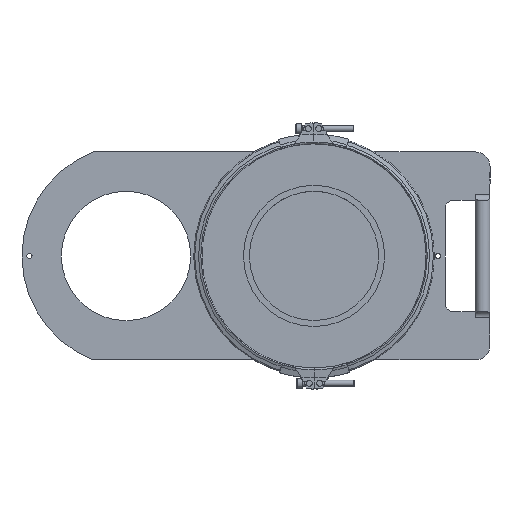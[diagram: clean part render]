
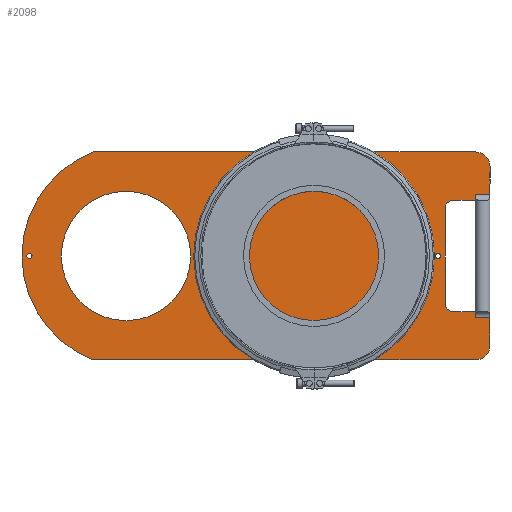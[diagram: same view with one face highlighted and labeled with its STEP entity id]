
A CAD part, top view. The second image highlights one B-rep face of the part: STEP entity #2098.
In plain terms, the highlighted planar face has unit normal (0, 0, 1) as drawn and (0, 0, -1) by its records, which use the part's own axes.
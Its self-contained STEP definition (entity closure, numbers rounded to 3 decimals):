
#1034=CARTESIAN_POINT('',(-616.5,140.0,0.0));
#1035=VERTEX_POINT('',#1034);
#1036=CARTESIAN_POINT('',(-620.,140.0,0.0));
#1037=DIRECTION('',(0.0,0.0,1.0));
#1038=DIRECTION('',(1.0,0.0,0.0));
#1039=AXIS2_PLACEMENT_3D('',#1036,#1037,#1038);
#1040=CIRCLE('',#1039,3.5);
#1041=EDGE_CURVE('',#1035,#1035,#1040,.T.);
#1083=CARTESIAN_POINT('',(-66.5,140.0,0.0));
#1084=VERTEX_POINT('',#1083);
#1085=CARTESIAN_POINT('',(-70.,140.0,0.0));
#1086=DIRECTION('',(0.0,0.0,1.0));
#1087=DIRECTION('',(1.0,0.0,0.0));
#1088=AXIS2_PLACEMENT_3D('',#1085,#1086,#1087);
#1089=CIRCLE('',#1088,3.5);
#1090=EDGE_CURVE('',#1084,#1084,#1089,.T.);
#1100=CARTESIAN_POINT('',(-0.113,57.,0.0));
#1101=VERTEX_POINT('',#1100);
#1121=CARTESIAN_POINT('',(-19.887,57.,0.0));
#1122=VERTEX_POINT('',#1121);
#1123=CARTESIAN_POINT('',(-0.113,57.,0.0));
#1124=DIRECTION('',(-1.0,0.0,0.0));
#1125=VECTOR('',#1124,19.774);
#1126=LINE('',#1123,#1125);
#1127=EDGE_CURVE('',#1101,#1122,#1126,.T.);
#1178=CARTESIAN_POINT('',(-19.887,223.,0.0));
#1179=VERTEX_POINT('',#1178);
#1199=CARTESIAN_POINT('',(-0.113,223.,0.0));
#1200=VERTEX_POINT('',#1199);
#1201=CARTESIAN_POINT('',(-19.887,223.,0.0));
#1202=DIRECTION('',(1.0,0.0,0.0));
#1203=VECTOR('',#1202,19.774);
#1204=LINE('',#1201,#1203);
#1205=EDGE_CURVE('',#1179,#1200,#1204,.T.);
#1584=CARTESIAN_POINT('',(-0.113,65.,0.0));
#1585=VERTEX_POINT('',#1584);
#1595=CARTESIAN_POINT('',(-0.113,57.,0.0));
#1596=DIRECTION('',(0.0,1.0,0.0));
#1597=VECTOR('',#1596,8.);
#1598=LINE('',#1595,#1597);
#1599=EDGE_CURVE('',#1101,#1585,#1598,.T.);
#1604=CARTESIAN_POINT('',(-19.887,65.,0.0));
#1605=VERTEX_POINT('',#1604);
#1606=CARTESIAN_POINT('',(-19.887,65.,0.0));
#1607=DIRECTION('',(0.0,-1.0,0.0));
#1608=VECTOR('',#1607,8.);
#1609=LINE('',#1606,#1608);
#1610=EDGE_CURVE('',#1605,#1122,#1609,.T.);
#1635=CARTESIAN_POINT('',(-0.113,215.,0.0));
#1636=VERTEX_POINT('',#1635);
#1656=CARTESIAN_POINT('',(-19.887,215.,0.0));
#1657=VERTEX_POINT('',#1656);
#1665=CARTESIAN_POINT('',(-19.887,223.,0.0));
#1666=DIRECTION('',(0.0,-1.0,0.0));
#1667=VECTOR('',#1666,8.);
#1668=LINE('',#1665,#1667);
#1669=EDGE_CURVE('',#1179,#1657,#1668,.T.);
#1674=CARTESIAN_POINT('',(-0.113,215.,0.0));
#1675=DIRECTION('',(0.0,1.0,0.0));
#1676=VECTOR('',#1675,8.);
#1677=LINE('',#1674,#1676);
#1678=EDGE_CURVE('',#1636,#1200,#1677,.T.);
#1705=CARTESIAN_POINT('',(0.,215.,0.0));
#1706=VERTEX_POINT('',#1705);
#1707=CARTESIAN_POINT('',(0.,215.,0.0));
#1708=DIRECTION('',(-1.0,0.0,0.0));
#1709=VECTOR('',#1708,0.113);
#1710=LINE('',#1707,#1709);
#1711=EDGE_CURVE('',#1706,#1636,#1710,.T.);
#1729=CARTESIAN_POINT('',(-50.,215.,0.0));
#1730=VERTEX_POINT('',#1729);
#1737=CARTESIAN_POINT('',(-19.887,215.,0.0));
#1738=DIRECTION('',(-1.0,0.0,0.0));
#1739=VECTOR('',#1738,30.113);
#1740=LINE('',#1737,#1739);
#1741=EDGE_CURVE('',#1657,#1730,#1740,.T.);
#1752=CARTESIAN_POINT('',(0.,65.,0.0));
#1753=VERTEX_POINT('',#1752);
#1760=CARTESIAN_POINT('',(-0.113,65.0,0.0));
#1761=DIRECTION('',(1.0,0.0,0.0));
#1762=VECTOR('',#1761,0.113);
#1763=LINE('',#1760,#1762);
#1764=EDGE_CURVE('',#1585,#1753,#1763,.T.);
#1791=CARTESIAN_POINT('',(-50.,65.,0.0));
#1792=VERTEX_POINT('',#1791);
#1793=CARTESIAN_POINT('',(-50.,65.,0.0));
#1794=DIRECTION('',(1.0,0.0,0.0));
#1795=VECTOR('',#1794,30.113);
#1796=LINE('',#1793,#1795);
#1797=EDGE_CURVE('',#1792,#1605,#1796,.T.);
#1817=CARTESIAN_POINT('',(-403.0,140.,0.0));
#1818=VERTEX_POINT('',#1817);
#1819=CARTESIAN_POINT('',(-490.0,140.0,0.0));
#1820=DIRECTION('',(0.0,0.0,1.0));
#1821=DIRECTION('',(-1.0,0.0,0.0));
#1822=AXIS2_PLACEMENT_3D('',#1819,#1820,#1821);
#1823=CIRCLE('',#1822,87.);
#1824=EDGE_CURVE('',#1818,#1818,#1823,.T.);
#1835=CARTESIAN_POINT('',(0.,260.0,0.0));
#1836=VERTEX_POINT('',#1835);
#1843=CARTESIAN_POINT('',(-20.,280.,0.0));
#1844=VERTEX_POINT('',#1843);
#1845=CARTESIAN_POINT('',(-20.,260.0,0.0));
#1846=DIRECTION('',(0.0,0.0,-1.0));
#1847=DIRECTION('',(-1.0,0.0,0.0));
#1848=AXIS2_PLACEMENT_3D('',#1845,#1846,#1847);
#1849=CIRCLE('',#1848,20.);
#1850=EDGE_CURVE('',#1844,#1836,#1849,.T.);
#1869=CARTESIAN_POINT('',(0.,260.0,0.0));
#1870=DIRECTION('',(0.0,-1.0,0.0));
#1871=VECTOR('',#1870,45.);
#1872=LINE('',#1869,#1871);
#1873=EDGE_CURVE('',#1836,#1706,#1872,.T.);
#1885=CARTESIAN_POINT('',(-60.0,205.0,0.0));
#1886=VERTEX_POINT('',#1885);
#1893=CARTESIAN_POINT('',(-50.0,205.0,0.0));
#1894=DIRECTION('',(0.0,0.0,1.0));
#1895=DIRECTION('',(0.0,1.0,0.0));
#1896=AXIS2_PLACEMENT_3D('',#1893,#1894,#1895);
#1897=CIRCLE('',#1896,10.);
#1898=EDGE_CURVE('',#1730,#1886,#1897,.T.);
#1910=CARTESIAN_POINT('',(-60.,75.,0.0));
#1911=VERTEX_POINT('',#1910);
#1918=CARTESIAN_POINT('',(-60.0,205.0,0.0));
#1919=DIRECTION('',(0.0,-1.0,0.0));
#1920=VECTOR('',#1919,130.0);
#1921=LINE('',#1918,#1920);
#1922=EDGE_CURVE('',#1886,#1911,#1921,.T.);
#1935=CARTESIAN_POINT('',(-50.,75.0,0.0));
#1936=DIRECTION('',(0.0,0.0,1.0));
#1937=DIRECTION('',(-1.0,0.0,0.0));
#1938=AXIS2_PLACEMENT_3D('',#1935,#1936,#1937);
#1939=CIRCLE('',#1938,10.);
#1940=EDGE_CURVE('',#1911,#1792,#1939,.T.);
#1952=CARTESIAN_POINT('',(0.,20.,0.0));
#1953=VERTEX_POINT('',#1952);
#1960=CARTESIAN_POINT('',(0.,65.,0.0));
#1961=DIRECTION('',(0.0,-1.0,0.0));
#1962=VECTOR('',#1961,45.);
#1963=LINE('',#1960,#1962);
#1964=EDGE_CURVE('',#1753,#1953,#1963,.T.);
#1977=CARTESIAN_POINT('',(-20.0,0.,0.0));
#1978=VERTEX_POINT('',#1977);
#1985=CARTESIAN_POINT('',(-20.,20.0,0.0));
#1986=DIRECTION('',(0.0,0.0,-1.0));
#1987=DIRECTION('',(0.0,1.0,0.0));
#1988=AXIS2_PLACEMENT_3D('',#1985,#1986,#1987);
#1989=CIRCLE('',#1988,20.);
#1990=EDGE_CURVE('',#1953,#1978,#1989,.T.);
#2002=CARTESIAN_POINT('',(-533.852,0.,0.0));
#2003=VERTEX_POINT('',#2002);
#2010=CARTESIAN_POINT('',(-20.0,0.,0.0));
#2011=DIRECTION('',(-1.0,0.0,0.0));
#2012=VECTOR('',#2011,513.852);
#2013=LINE('',#2010,#2012);
#2014=EDGE_CURVE('',#1978,#2003,#2013,.T.);
#2026=CARTESIAN_POINT('',(-533.852,280.,0.0));
#2027=VERTEX_POINT('',#2026);
#2034=CARTESIAN_POINT('',(-480.0,140.0,0.0));
#2035=DIRECTION('',(0.0,0.0,-1.0));
#2036=DIRECTION('',(0.359,-0.933,0.0));
#2037=AXIS2_PLACEMENT_3D('',#2034,#2035,#2036);
#2038=CIRCLE('',#2037,150.);
#2039=EDGE_CURVE('',#2003,#2027,#2038,.T.);
#2052=CARTESIAN_POINT('',(-533.852,280.,0.0));
#2053=DIRECTION('',(1.0,0.0,0.0));
#2054=VECTOR('',#2053,513.852);
#2055=LINE('',#2052,#2054);
#2056=EDGE_CURVE('',#2027,#1844,#2055,.T.);
#2062=CARTESIAN_POINT('',(-282.979,140.0,0.0));
#2063=DIRECTION('',(0.0,0.0,1.0));
#2064=DIRECTION('',(1.0,0.0,0.0));
#2065=AXIS2_PLACEMENT_3D('',#2062,#2063,#2064);
#2066=PLANE('',#2065);
#2067=ORIENTED_EDGE('',*,*,#1599,.T.);
#2068=ORIENTED_EDGE('',*,*,#1764,.T.);
#2069=ORIENTED_EDGE('',*,*,#1964,.T.);
#2070=ORIENTED_EDGE('',*,*,#1990,.T.);
#2071=ORIENTED_EDGE('',*,*,#2014,.T.);
#2072=ORIENTED_EDGE('',*,*,#2039,.T.);
#2073=ORIENTED_EDGE('',*,*,#2056,.T.);
#2074=ORIENTED_EDGE('',*,*,#1850,.T.);
#2075=ORIENTED_EDGE('',*,*,#1873,.T.);
#2076=ORIENTED_EDGE('',*,*,#1711,.T.);
#2077=ORIENTED_EDGE('',*,*,#1678,.T.);
#2078=ORIENTED_EDGE('',*,*,#1205,.F.);
#2079=ORIENTED_EDGE('',*,*,#1669,.T.);
#2080=ORIENTED_EDGE('',*,*,#1741,.T.);
#2081=ORIENTED_EDGE('',*,*,#1898,.T.);
#2082=ORIENTED_EDGE('',*,*,#1922,.T.);
#2083=ORIENTED_EDGE('',*,*,#1940,.T.);
#2084=ORIENTED_EDGE('',*,*,#1797,.T.);
#2085=ORIENTED_EDGE('',*,*,#1610,.T.);
#2086=ORIENTED_EDGE('',*,*,#1127,.F.);
#2087=EDGE_LOOP('',(#2067,#2068,#2069,#2070,#2071,#2072,#2073,#2074,#2075,#2076,#2077,#2078,#2079,#2080,#2081,#2082,#2083,#2084,#2085,#2086));
#2088=FACE_OUTER_BOUND('',#2087,.T.);
#2089=ORIENTED_EDGE('',*,*,#1041,.T.);
#2090=EDGE_LOOP('',(#2089));
#2091=FACE_BOUND('',#2090,.T.);
#2092=ORIENTED_EDGE('',*,*,#1090,.T.);
#2093=EDGE_LOOP('',(#2092));
#2094=FACE_BOUND('',#2093,.T.);
#2095=ORIENTED_EDGE('',*,*,#1824,.T.);
#2096=EDGE_LOOP('',(#2095));
#2097=FACE_BOUND('',#2096,.T.);
#2098=ADVANCED_FACE('',(#2088,#2091,#2094,#2097),#2066,.F.);
